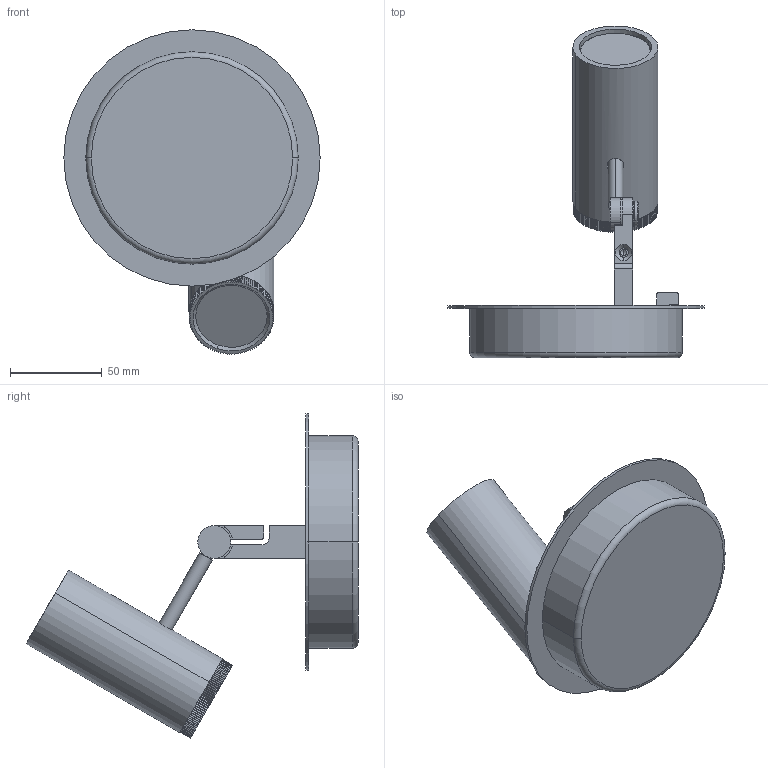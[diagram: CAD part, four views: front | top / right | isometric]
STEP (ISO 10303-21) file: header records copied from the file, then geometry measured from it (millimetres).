
FILE_DESCRIPTION((''),'2;1');
FILE_NAME('POLO_SPOT_ASM','2014-07-24T',('oftec'),(''),'PRO/ENGINEER BY PARAMETRIC TECHNOLOGY CORPORATION, 2012130','PRO/ENGINEER BY PARAMETRIC TECHNOLOGY CORPORATION, 2012130','');
FILE_SCHEMA(('CONFIG_CONTROL_DESIGN'));
Length unit declared in the file: millimetre
Products named in the file (14): BRAZO_APLIQUE; PANTALLA_NUEVA; ARANDELA_PA_PANT; EJE_PANTALLA_SOLDADO; ESRTALITE_04; ARANDELA_ROCE_TORNILLO; TORNILLO_ESPECIAL02; RUEDA_INTERRUPTOR; 642-046; PANTALLA_NUEVA_ASM; 642-087; 642-084; 642-098; POLO_SPOT_ASM
Assembly tree (13 placements, depth 3):
  POLO_SPOT_ASM
    BRAZO_APLIQUE
    PANTALLA_NUEVA_ASM
      PANTALLA_NUEVA
      ARANDELA_PA_PANT
      EJE_PANTALLA_SOLDADO
      ESRTALITE_04
      ARANDELA_ROCE_TORNILLO
      TORNILLO_ESPECIAL02
      RUEDA_INTERRUPTOR
      642-046
    642-087
    642-084
    642-098
Bounding box: 140 x 181.34 x 177.16 mm (x, y, z)
Volume: 118354.2 mm3; surface area: 121178.6 mm2
Topology: 14 solids, 14 shells, 475 faces, 1249 edges, 811 vertices
Faces by surface type: plane 335, cylinder 106, cone 28, torus 6
Entity records: 14967 total; most frequent: CARTESIAN_POINT 2743, DIRECTION 2487, ORIENTED_EDGE 2474, EDGE_CURVE 1237, VECTOR 979, LINE 979, VERTEX_POINT 811, AXIS2_PLACEMENT_3D 754
